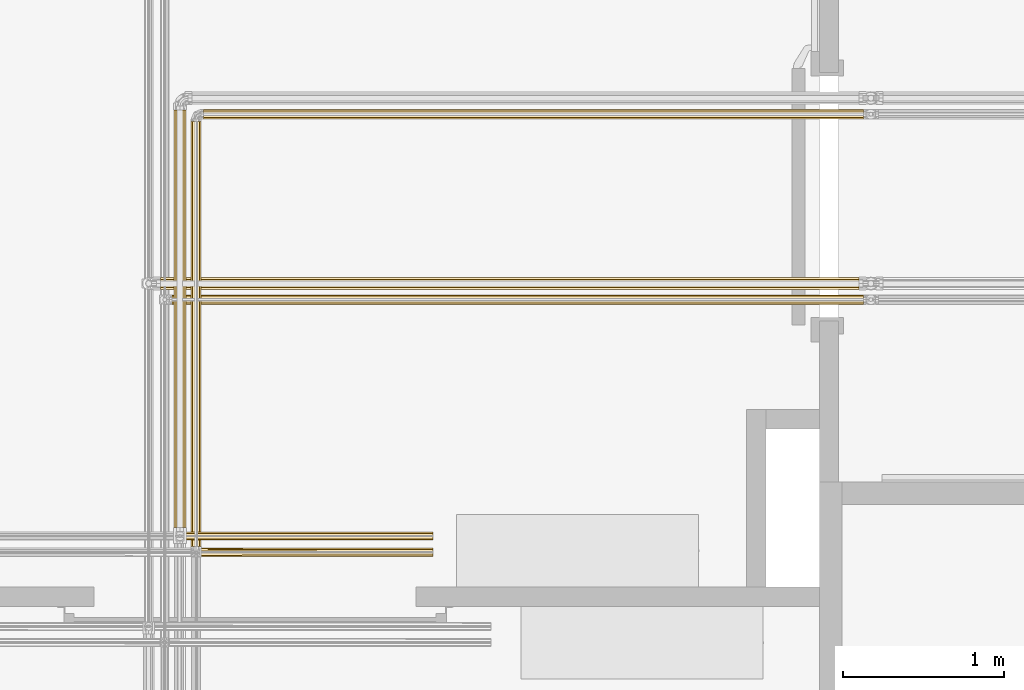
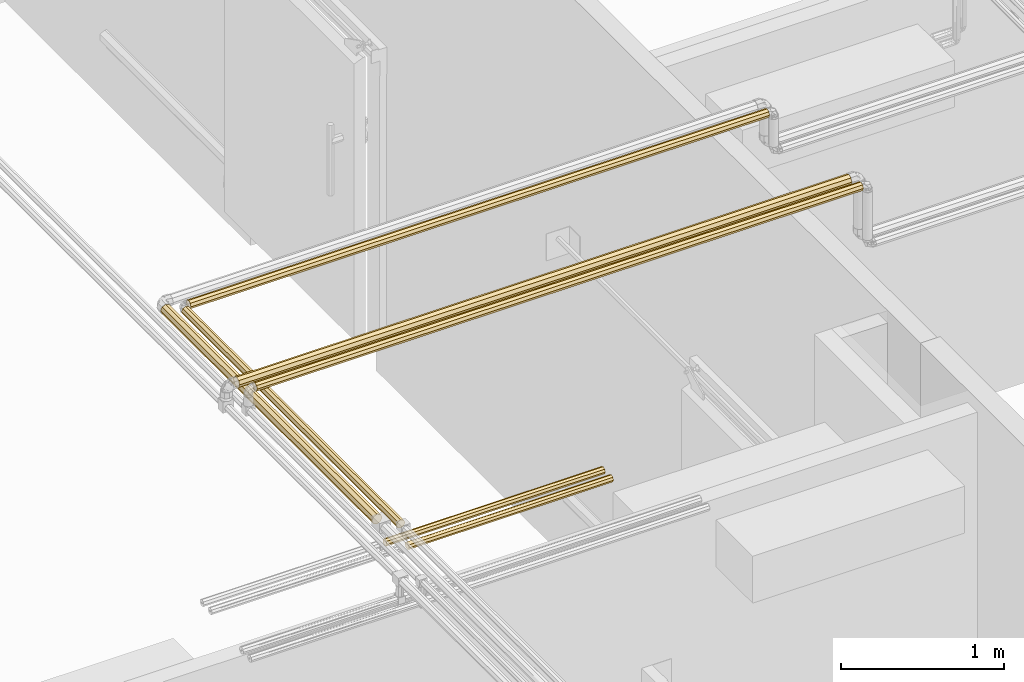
# One storey, part 87 of 652: 7 coverings.
"""IFC2X3 building model written with IfcOpenShell, lengths in millimetres."""

from ifc_helpers import new_model, entity, si_unit, converted_unit, direction, frame, origin, place, context, subcontext, project, spatial, faceted_brep, material, type_object, element, save


model = new_model("IFC2X3")

# Units and contexts
model_context = context("Model", 3, precision=0.01, world=frame((0.0, 0.0, 308426.39999999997)), true_north=direction((6.123233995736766e-17, 1.0)))
plan_context = context("Plan", 3, precision=0.01, world=frame((0.0, 0.0, 308426.39999999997)), true_north=direction((6.123233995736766e-17, 1.0)))
body_context = subcontext(model_context, "Body", "Model", "MODEL_VIEW")
ifc_project = project(units=[si_unit("LENGTHUNIT", "METRE", prefix="MILLI"), si_unit("AREAUNIT", "SQUARE_METRE"), si_unit("VOLUMEUNIT", "CUBIC_METRE"), converted_unit("PLANEANGLEUNIT", "DEGREE", entity("IfcPlaneAngleMeasure", 0.017453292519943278), si_unit("PLANEANGLEUNIT", "RADIAN"), dimensions=[0, 0, 0, 0, 0, 0, 0])], contexts=[model_context, plan_context])

# Site, building, storey
site_placement = place(None, origin())
site = spatial("IfcSite", under=ifc_project, at=site_placement, Name="Default", CompositionType="ELEMENT")
building_placement = place(site_placement, origin())
building = spatial("IfcBuilding", under=site, at=building_placement, CompositionType="ELEMENT")
storey_placement = place(building_placement, frame((0.0, 0.0, 1730.6999999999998)))
storey = spatial("IfcBuildingStorey", under=building, at=storey_placement, Name="EG_Produktion_FFB", CompositionType="ELEMENT", Elevation=1730.6999999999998)

# Coverings
ifc_material = material(Name="Dämmung - Armaflex-Schlauch")
covering_type = type_object("IfcCoveringType", Name="Rohrdämmung außen:Armaflex-Schlauch", PredefinedType="INSULATION")
covering_1_placement = place(storey_placement, frame((15252.485930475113, 58319.954090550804, 4231.707772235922)))
element("IfcCovering", 1, at=covering_1_placement, inside=storey, type_object=covering_type, material=ifc_material, Name="Rohrdämmung außen:Armaflex-Schlauch", ObjectType="Rohrdämmung außen:Armaflex-Schlauch", PredefinedType="INSULATION", context=body_context, shape_type="Brep", body=[
    faceted_brep([(10.415019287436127, 2634.0286594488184, -53.000525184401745), (8.210082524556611, 2634.0286594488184, -47.67733694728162), (6.005145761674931, 2634.0286594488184, -42.35414871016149), (3.8764229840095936, 2634.02865944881, -37.214957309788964), (1.5952722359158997, 2634.0286594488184, -31.70777223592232), (3.8764229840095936, 2634.0286594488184, -26.200587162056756), (6.005145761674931, 2634.0286594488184, -21.061395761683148), (8.210082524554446, 2634.0286594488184, -15.738207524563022), (10.415019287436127, 2634.0286594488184, -10.415019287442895), (15.738207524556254, 2634.0286594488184, -8.210082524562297), (21.06139576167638, 2634.0286594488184, -6.0051457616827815), (26.200587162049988, 2634.0286594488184, -3.8764229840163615), (31.707772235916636, 2634.0286594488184, -1.5952722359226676), (37.21495730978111, 2634.0286594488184, -3.8764229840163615), (42.354148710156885, 2634.0286594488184, -6.0051457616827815), (47.67733694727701, 2634.02865944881, -8.21008252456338), (53.00052518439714, 2634.0286594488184, -10.415019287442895), (55.20546194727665, 2634.0286594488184, -15.738207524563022), (57.41039871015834, 2634.0286594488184, -21.061395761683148), (59.53912148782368, 2634.0286594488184, -26.200587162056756), (61.82027223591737, 2634.0286594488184, -31.70777223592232), (59.61533547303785, 2634.0286594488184, -37.03096047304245), (57.41039871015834, 2634.0286594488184, -42.35414871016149), (55.20546194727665, 2634.0286594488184, -47.67733694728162), (53.00052518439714, 2634.0286594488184, -53.000525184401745), (47.67733694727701, 2634.0286594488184, -55.20546194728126), (42.354148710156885, 2634.0286594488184, -57.41039871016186), (37.21495730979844, 2634.0286594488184, -59.53912148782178), (31.707772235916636, 2634.0286594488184, -61.82027223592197), (26.20058716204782, 2634.0286594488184, -59.539121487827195), (21.06139576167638, 2634.0286594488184, -57.41039871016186), (15.738207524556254, 2634.0286594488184, -55.20546194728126), (10.41501928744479, 0.0, -53.000525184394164), (15.738207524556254, 0.0, -55.20546194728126), (21.06139576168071, 0.0, -57.41039871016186), (26.38458399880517, 0.0, -59.61533547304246), (31.707772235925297, 0.0, -61.82027223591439), (37.21495731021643, 0.0, -59.53912148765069), (42.72214238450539, 0.0, -57.25797073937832), (47.861333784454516, 0.0, -55.12924796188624), (53.0005251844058, 0.0, -53.000525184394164), (55.205461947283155, 0.0, -47.677336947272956), (57.41039871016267, 0.0, -42.35414871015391), (59.61533547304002, 0.0, -37.03096047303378), (61.82027223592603, 0.0, -31.70777223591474), (59.53912148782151, 0.0, -26.200587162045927), (57.25797073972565, 0.0, -20.693402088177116), (55.12924796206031, 0.0, -15.55421068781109), (53.0005251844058, 0.0, -10.415019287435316), (47.67733694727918, 0.0, -8.21008252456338), (42.35414871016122, 0.0, -6.0051457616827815), (37.03096047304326, 0.0, -3.800208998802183), (31.707772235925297, 0.0, -1.5952722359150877), (26.200587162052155, 0.0, -3.8764229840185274), (20.693402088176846, 0.0, -6.157573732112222), (15.554210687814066, 0.0, -8.286296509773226), (10.41501928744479, 0.0, -10.415019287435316), (8.21008252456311, 0.0, -15.738207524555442), (6.005145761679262, 0.0, -21.061395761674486), (3.800208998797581, 0.0, -26.38458399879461), (1.5952722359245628, 0.0, -31.70777223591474), (3.8764229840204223, 0.0, -37.2149573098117), (6.157573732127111, 0.0, -42.722142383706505), (8.28629650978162, 0.0, -47.861333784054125)], [[[0, 1, 2, 3, 4, 5, 6, 7, 8, 9, 10, 11, 12, 13, 14, 15, 16, 17, 18, 19, 20, 21, 22, 23, 24, 25, 26, 27, 28, 29, 30, 31]], [[32, 33, 34, 35, 36, 37, 38, 39, 40, 41, 42, 43, 44, 45, 46, 47, 48, 49, 50, 51, 52, 53, 54, 55, 56, 57, 58, 59, 60, 61, 62, 63]], [[42, 41, 40, 24, 23, 22, 21, 20, 44, 43]], [[24, 40, 39, 38, 37, 36, 28, 27, 26, 25]], [[28, 36, 35, 34, 33, 32, 0, 31, 30, 29]], [[0, 32, 63, 62, 61, 60, 4, 3, 2, 1]], [[4, 60, 59, 58, 57, 56, 8, 7, 6, 5]], [[8, 56, 55, 54, 53, 52, 12, 11, 10, 9]], [[12, 52, 51, 50, 49, 48, 16, 15, 14, 13]], [[16, 48, 47, 46, 45, 44, 20, 19, 18, 17]]]),
])
covering_2_placement = place(storey_placement, frame((15146.135930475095, 58437.35309055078, 4238.057772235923)))
element("IfcCovering", 2, at=covering_2_placement, inside=storey, type_object=covering_type, material=ifc_material, Name="Rohrdämmung außen:Armaflex-Schlauch", ObjectType="Rohrdämmung außen:Armaflex-Schlauch", PredefinedType="INSULATION", context=body_context, shape_type="Brep", body=[
    faceted_brep([(63.840653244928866, 2588.562659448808, -12.274891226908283), (66.51055799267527, 2588.562659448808, -18.720611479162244), (69.18046274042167, 2588.562659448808, -25.166331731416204), (71.85036748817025, 2588.562659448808, -31.61205198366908), (74.52027223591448, 2588.562659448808, -38.05777223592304), (71.85036748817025, 2588.562659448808, -44.50349248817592), (69.18046274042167, 2588.562659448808, -50.94921274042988), (66.5105579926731, 2588.562659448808, -57.39493299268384), (63.840653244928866, 2588.562659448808, -63.8406532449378), (57.39493299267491, 2588.562659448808, -66.5105579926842), (50.94921274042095, 2588.562659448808, -69.18046274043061), (44.50349248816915, 2588.5626594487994, -71.85036748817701), (38.05777223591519, 2588.562659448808, -74.52027223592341), (30.590862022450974, 2588.562659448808, -71.42737675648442), (25.16633173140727, 2588.562659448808, -69.18046274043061), (18.720611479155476, 2588.562659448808, -66.5105579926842), (12.274891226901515, 2588.562659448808, -63.8406532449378), (9.60498647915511, 2588.562659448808, -57.39493299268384), (6.935081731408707, 2588.562659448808, -50.94921274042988), (4.265176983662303, 2588.562659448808, -44.503492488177), (1.5952722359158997, 2588.562659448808, -38.05777223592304), (4.688167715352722, 2588.562659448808, -30.59086202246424), (6.935081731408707, 2588.562659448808, -25.166331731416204), (9.60498647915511, 2588.562659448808, -18.720611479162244), (12.274891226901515, 2588.562659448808, -12.274891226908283), (18.72061147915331, 2588.562659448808, -9.604986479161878), (25.166331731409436, 2588.562659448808, -6.935081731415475), (31.612051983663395, 2588.562659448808, -4.265176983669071), (38.05777223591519, 2588.562659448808, -1.5952722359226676), (45.52468244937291, 2588.562659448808, -4.68816771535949), (50.94921274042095, 2588.562659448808, -6.935081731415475), (57.39493299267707, 2588.562659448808, -9.604986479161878), (63.84065324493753, 0.0, -12.274891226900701), (57.39493299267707, 0.0, -9.604986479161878), (50.949212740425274, 0.0, -6.935081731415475), (44.503492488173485, 0.0, -4.265176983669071), (38.057772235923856, 0.0, -1.5952722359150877), (30.590862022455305, 0.0, -4.688167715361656), (23.12395180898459, 0.0, -7.781063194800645), (12.274891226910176, 0.0, -12.274891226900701), (9.604986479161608, 0.0, -18.72061147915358), (6.935081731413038, 0.0, -25.16633173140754), (4.265176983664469, 0.0, -31.6120519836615), (1.5952722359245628, 0.0, -38.05777223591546), (4.6881677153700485, 0.0, -45.52468244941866), (7.781063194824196, 0.0, -52.99159266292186), (12.274891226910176, 0.0, -63.84065324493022), (18.72061147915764, 0.0, -66.51055799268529), (25.166331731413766, 0.0, -69.18046274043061), (31.612051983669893, 0.0, -71.85036748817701), (38.057772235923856, 0.0, -74.52027223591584), (45.52468245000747, 0.0, -71.42737675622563), (52.99159266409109, 0.0, -68.33448127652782), (63.84065324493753, 0.0, -63.84065324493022), (66.51055799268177, 0.0, -57.39493299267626), (69.18046274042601, 0.0, -50.949212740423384), (71.85036748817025, 0.0, -44.50349248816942), (74.52027223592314, 0.0, -38.05777223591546), (71.4273767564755, 0.0, -30.59086202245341), (68.3344812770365, 0.0, -23.123951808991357)], [[[0, 1, 2, 3, 4, 5, 6, 7, 8, 9, 10, 11, 12, 13, 14, 15, 16, 17, 18, 19, 20, 21, 22, 23, 24, 25, 26, 27, 28, 29, 30, 31]], [[32, 33, 34, 35, 36, 37, 38, 39, 40, 41, 42, 43, 44, 45, 46, 47, 48, 49, 50, 51, 52, 53, 54, 55, 56, 57, 58, 59]], [[55, 54, 53, 8, 7, 6, 5, 4, 57, 56]], [[53, 52, 51, 50, 12, 11, 10, 9, 8]], [[43, 20, 19, 18, 17, 16, 46, 45, 44]], [[15, 14, 13, 12, 50, 49, 48, 47, 46, 16]], [[36, 28, 27, 26, 25, 24, 39, 38, 37]], [[23, 22, 21, 20, 43, 42, 41, 40, 39, 24]], [[57, 4, 3, 2, 1, 0, 32, 59, 58]], [[31, 30, 29, 28, 36, 35, 34, 33, 32, 0]]]),
])
covering_3_placement = place(storey_placement, frame((15306.597430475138, 58255.96056831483, 4076.945272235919)))
element("IfcCovering", 3, at=covering_3_placement, inside=storey, type_object=covering_type, material=ifc_material, Name="Rohrdämmung außen:Armaflex-Schlauch", ObjectType="Rohrdämmung außen:Armaflex-Schlauch", PredefinedType="INSULATION", context=body_context, shape_type="Brep", body=[
    faceted_brep([(1.5952722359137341, 26.945272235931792, -52.295272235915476), (1.5952722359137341, 23.070405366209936, -50.69024982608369), (1.5952722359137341, 17.982693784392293, -48.58285068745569), (1.5952722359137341, 13.50140455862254, -46.726639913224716), (1.5952722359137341, 9.020115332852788, -44.87042913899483), (1.5952722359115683, 7.163904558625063, -40.38913991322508), (1.5952722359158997, 5.307693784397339, -35.90785068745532), (1.5952722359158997, 3.4514830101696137, -31.426561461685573), (1.5952722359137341, 1.5952722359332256, -26.945272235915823), (1.5952722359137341, 4.658921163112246, -19.11346975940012), (1.5952722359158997, 6.491397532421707, -14.428992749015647), (1.5952722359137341, 8.323873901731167, -9.744515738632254), (1.5952722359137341, 13.55197282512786, -6.345393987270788), (1.5952722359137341, 18.78007174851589, -2.946272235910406), (1.5952722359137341, 35.1104727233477, -2.9462722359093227), (1.5952722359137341, 38.6393593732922, -5.923287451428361), (1.5952722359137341, 42.16824602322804, -8.900302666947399), (1.5952722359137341, 45.69713267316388, -11.877317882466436), (1.5952722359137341, 49.22601932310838, -14.854333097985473), (1.5952722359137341, 50.760645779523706, -20.89980266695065), (1.5952722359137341, 52.29527223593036, -26.945272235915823), (1.5952722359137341, 50.439061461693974, -31.426561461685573), (1.5952722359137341, 48.58285068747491, -35.90785068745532), (1.5952722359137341, 46.72663991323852, -40.38913991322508), (1.5952722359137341, 44.8704291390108, -44.87042913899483), (1.5952722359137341, 40.389139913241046, -46.726639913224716), (1.5952722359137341, 35.907850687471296, -48.58285068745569), (1.5952722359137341, 31.426561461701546, -50.43906146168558), (1447.4015695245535, 13.50140455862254, -46.726639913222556), (1447.4015695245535, 17.982693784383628, -48.58285068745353), (1447.4015695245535, 22.46398301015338, -50.4390614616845), (1447.4015695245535, 26.94527223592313, -52.29527223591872), (1447.4015695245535, 34.69500597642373, -49.08522741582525), (1447.4015695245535, 39.78271755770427, -46.97782827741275), (1447.4015695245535, 44.870429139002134, -44.87042913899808), (1447.4015695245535, 46.72663991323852, -40.389139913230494), (1447.4015695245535, 48.58285068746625, -35.90785068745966), (1447.4015695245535, 50.439061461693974, -31.426561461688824), (1447.4015695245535, 52.2952722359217, -26.94527223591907), (1447.4015695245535, 50.69024982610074, -23.070405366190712), (1447.4015695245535, 48.58285068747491, -17.98269378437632), (1447.4015695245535, 46.72663991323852, -13.501404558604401), (1447.4015695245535, 44.870429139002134, -9.020115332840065), (1447.4015695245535, 40.389139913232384, -7.163904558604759), (1447.4015695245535, 35.907850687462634, -5.307693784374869), (1447.4015695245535, 31.426561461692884, -3.451483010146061), (1447.4015695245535, 26.94527223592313, -1.5952722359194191), (1447.4015695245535, 22.46398301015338, -3.451483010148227), (1447.4015695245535, 17.982693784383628, -5.307693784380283), (1447.4015695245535, 13.501404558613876, -7.16390455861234), (1447.4015695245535, 9.020115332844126, -9.020115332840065), (1447.4015695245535, 7.163904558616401, -13.501404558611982), (1447.4015695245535, 5.307693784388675, -17.982693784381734), (1447.4015695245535, 3.4514830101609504, -22.4639830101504), (1447.4015695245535, 1.5952722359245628, -26.94527223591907), (1447.4015695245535, 4.80531705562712, -34.695005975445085), (1447.4015695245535, 6.912716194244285, -39.782717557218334), (1447.4015695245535, 9.020115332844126, -44.87042913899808), (2.606241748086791, 22.807165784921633, -1.935302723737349), (2.946272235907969, 26.945272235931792, -1.5952722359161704), (2.606241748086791, 31.083378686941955, -1.935302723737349)], [[[0, 1, 2, 3, 4, 5, 6, 7, 8, 9, 10, 11, 12, 13, 14, 15, 16, 17, 18, 19, 20, 21, 22, 23, 24, 25, 26, 27]], [[28, 29, 30, 31, 32, 33, 34, 35, 36, 37, 38, 39, 40, 41, 42, 43, 44, 45, 46, 47, 48, 49, 50, 51, 52, 53, 54, 55, 56, 57]], [[36, 35, 34, 24, 23, 22, 21, 20, 38, 37]], [[32, 31, 0, 27, 26, 25, 24, 34, 33]], [[29, 28, 57, 4, 3, 2, 1, 0, 31, 30]], [[4, 57, 56, 55, 54, 8, 7, 6, 5]], [[9, 52, 10]], [[47, 46, 58]], [[51, 11, 10]], [[8, 53, 9]], [[12, 50, 49, 48]], [[53, 52, 9]], [[47, 13, 48]], [[13, 47, 58]], [[53, 8, 54]], [[50, 11, 51]], [[46, 59, 58]], [[50, 12, 11]], [[51, 10, 52]], [[12, 48, 13]], [[45, 44, 14]], [[39, 38, 20]], [[43, 16, 15]], [[46, 60, 59]], [[42, 16, 43]], [[14, 60, 45]], [[40, 19, 18]], [[44, 43, 15]], [[17, 41, 18]], [[39, 20, 19]], [[17, 16, 42]], [[19, 40, 39]], [[44, 15, 14]], [[60, 46, 45]], [[41, 17, 42]], [[41, 40, 18]], [[14, 13, 58, 59, 60]]]),
])
covering_4_placement = place(storey_placement, frame((15208.192702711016, 58355.960568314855, 4023.0547277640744)))
element("IfcCovering", 4, at=covering_4_placement, inside=storey, type_object=covering_type, material=ifc_material, Name="Rohrdämmung außen:Armaflex-Schlauch", ObjectType="Rohrdämmung außen:Armaflex-Schlauch", PredefinedType="INSULATION", context=body_context, shape_type="Brep", body=[
    faceted_brep([(0.0, 1.5952722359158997, 26.94527223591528), (0.0, 3.096463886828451, 30.569469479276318), (0.0, 5.307693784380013, 35.90785068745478), (0.0, 7.1639045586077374, 40.38913991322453), (0.0, 9.020115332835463, 44.87042913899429), (0.0, 13.501404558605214, 46.726639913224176), (0.0, 17.982693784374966, 48.58285068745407), (0.0, 22.463983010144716, 50.439061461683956), (0.0, 26.94527223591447, 52.29527223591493), (0.0, 30.569469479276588, 50.79408058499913), (0.0, 35.90785068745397, 48.58285068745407), (0.0, 40.38913991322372, 46.726639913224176), (0.0, 44.87042913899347, 44.87042913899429), (0.0, 46.72663991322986, 40.38913991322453), (0.0, 48.582850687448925, 35.90785068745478), (0.0, 50.43906146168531, 31.426561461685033), (0.0, 52.29527223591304, 26.94527223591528), (0.0, 50.43906146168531, 22.46398301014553), (0.0, 48.582850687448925, 17.982693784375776), (0.0, 46.7266399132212, 13.501404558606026), (0.0, 44.87042913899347, 9.020115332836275), (0.0, 40.38913991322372, 7.163904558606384), (0.0, 35.90785068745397, 5.307693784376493), (0.0, 31.42656146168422, 3.4514830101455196), (0.0, 26.94527223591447, 1.595272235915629), (0.0, 23.321074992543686, 3.096463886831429), (0.0, 17.982693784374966, 5.307693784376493), (0.0, 13.501404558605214, 7.163904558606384), (0.0, 9.020115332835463, 9.020115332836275), (0.0, 7.163904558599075, 13.501404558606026), (0.0, 5.307693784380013, 17.982693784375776), (0.0, 3.4514830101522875, 22.46398301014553), (1545.8062972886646, 13.50140455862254, 7.163904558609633), (1545.8062972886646, 17.982693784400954, 5.307693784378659), (1545.8062972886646, 22.46398301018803, 3.4514830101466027), (1545.8062972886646, 26.945272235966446, 1.5952722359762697), (1545.8062972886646, 34.193666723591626, 4.597655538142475), (1545.8062972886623, 39.532047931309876, 6.808885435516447), (1545.8062972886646, 44.87042913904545, 9.020115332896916), (1545.8062972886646, 46.72663991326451, 13.501404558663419), (1545.8062972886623, 48.58285068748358, 17.982693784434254), (1545.8062972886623, 50.439061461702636, 22.463983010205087), (1545.8062972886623, 52.295272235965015, 26.94527223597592), (1545.8062972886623, 49.29288893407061, 34.19366672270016), (1545.8062972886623, 47.08165903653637, 39.532047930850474), (1545.8062972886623, 44.87042913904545, 44.87042913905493), (1545.8062972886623, 40.38913991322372, 46.72663991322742), (1545.8062972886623, 35.907850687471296, 48.58285068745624), (1545.8062972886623, 31.426561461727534, 50.43906146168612), (1545.8062972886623, 26.945272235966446, 52.295272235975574), (1545.8062972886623, 19.696877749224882, 49.292888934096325), (1545.8062972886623, 14.358496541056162, 47.081659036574), (1545.8062972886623, 9.02011533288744, 44.87042913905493), (1545.8062972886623, 7.16390455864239, 40.38913991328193), (1545.8062972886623, 5.307693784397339, 35.90785068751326), (1545.8062972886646, 3.4514830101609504, 31.42656146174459), (1545.8062972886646, 1.5952722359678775, 26.94527223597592), (1545.8062972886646, 4.597655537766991, 19.696877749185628), (1545.8062972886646, 6.808885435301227, 14.35849654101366), (1545.8062972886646, 9.02011533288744, 9.020115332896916)], [[[0, 1, 2, 3, 4, 5, 6, 7, 8, 9, 10, 11, 12, 13, 14, 15, 16, 17, 18, 19, 20, 21, 22, 23, 24, 25, 26, 27, 28, 29, 30, 31]], [[32, 33, 34, 35, 36, 37, 38, 39, 40, 41, 42, 43, 44, 45, 46, 47, 48, 49, 50, 51, 52, 53, 54, 55, 56, 57, 58, 59]], [[40, 39, 38, 20, 19, 18, 17, 16, 42, 41]], [[36, 35, 24, 23, 22, 21, 20, 38, 37]], [[33, 32, 59, 28, 27, 26, 25, 24, 35, 34]], [[28, 59, 58, 57, 56, 0, 31, 30, 29]], [[54, 53, 52, 4, 3, 2, 1, 0, 56, 55]], [[4, 52, 51, 50, 49, 8, 7, 6, 5]], [[47, 46, 45, 12, 11, 10, 9, 8, 49, 48]], [[12, 45, 44, 43, 42, 16, 15, 14, 13]]]),
])
covering_5_placement = place(storey_placement, frame((15136.017249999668, 59818.29222775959, 4318.2922277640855)))
element("IfcCovering", 5, at=covering_5_placement, inside=storey, type_object=covering_type, material=ifc_material, Name="Rohrdämmung außen:Armaflex-Schlauch", ObjectType="Rohrdämmung außen:Armaflex-Schlauch", PredefinedType="INSULATION", context=body_context, shape_type="Brep", body=[
    faceted_brep([(4287.965499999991, 61.82027223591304, 31.707772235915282), (4287.965499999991, 59.01772335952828, 38.47372374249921), (4287.965499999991, 57.410398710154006, 42.354148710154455), (4287.965499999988, 55.205461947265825, 47.677336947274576), (4287.965499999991, 53.000525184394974, 53.000525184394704), (4287.965499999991, 47.67733694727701, 55.2054619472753), (4287.965499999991, 42.35414871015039, 57.410398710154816), (4287.965499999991, 37.03096047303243, 59.615335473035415), (4287.965499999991, 31.70777223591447, 61.820272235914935), (4287.965499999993, 24.941820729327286, 59.01772335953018), (4287.965499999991, 21.061395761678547, 57.410398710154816), (4287.965499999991, 15.738207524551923, 55.2054619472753), (4287.965499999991, 10.415019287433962, 53.000525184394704), (4287.965499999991, 8.21008252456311, 47.677336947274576), (4287.965499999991, 6.005145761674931, 42.354148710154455), (4287.965499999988, 3.8002089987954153, 37.03096047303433), (4287.965499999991, 1.5952722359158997, 31.707772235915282), (4287.965499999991, 3.8002089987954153, 26.384583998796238), (4287.965499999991, 6.005145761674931, 21.06139576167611), (4287.965499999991, 8.210082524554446, 15.738207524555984), (4287.965499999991, 10.415019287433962, 10.415019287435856), (4287.965499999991, 15.738207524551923, 8.210082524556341), (4287.965499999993, 21.061395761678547, 6.005145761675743), (4287.965499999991, 26.384583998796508, 3.8002089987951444), (4287.965499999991, 31.70777223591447, 1.595272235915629), (4287.965499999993, 38.47372374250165, 4.397821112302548), (4287.965499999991, 42.35414871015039, 6.005145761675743), (4287.965499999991, 47.67733694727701, 8.210082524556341), (4287.965499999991, 53.000525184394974, 10.415019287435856), (4287.965499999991, 55.20546194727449, 15.738207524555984), (4287.965499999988, 57.410398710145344, 21.061395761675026), (4287.965499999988, 59.61533547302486, 26.384583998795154), (0.0, 47.677336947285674, 8.210082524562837), (0.0, 42.35414871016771, 6.005145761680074), (0.0, 37.03096047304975, 3.800208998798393), (0.0, 31.707772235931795, 1.595272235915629), (0.0, 24.94182072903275, 4.3978211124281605), (0.0, 18.175869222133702, 7.2003699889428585), (0.0, 10.415019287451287, 10.415019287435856), (0.0, 8.21008252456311, 15.738207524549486), (0.0, 6.005145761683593, 21.06139576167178), (0.0, 3.800208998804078, 26.38458399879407), (0.0, 1.5952722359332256, 31.707772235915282), (0.0, 4.397821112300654, 38.47372374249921), (0.0, 7.200369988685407, 45.23967524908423), (0.0, 10.415019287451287, 53.000525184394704), (0.0, 15.738207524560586, 55.20546194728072), (0.0, 21.06139576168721, 57.41039871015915), (0.0, 26.384583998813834, 59.61533547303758), (0.0, 31.707772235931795, 61.820272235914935), (0.0, 38.47372374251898, 59.01772335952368), (0.0, 45.239675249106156, 56.21517448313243), (0.0, 53.000525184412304, 53.000525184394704), (0.0, 55.205461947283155, 47.67733694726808), (0.0, 57.41039871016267, 42.35414871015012), (0.0, 59.61533547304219, 37.03096047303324), (0.0, 61.82027223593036, 31.707772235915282), (0.0, 59.01772335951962, 24.94182072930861), (0.0, 56.21517448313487, 18.17586922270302), (0.0, 53.000525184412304, 10.415019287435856)], [[[0, 1, 2, 3, 4, 5, 6, 7, 8, 9, 10, 11, 12, 13, 14, 15, 16, 17, 18, 19, 20, 21, 22, 23, 24, 25, 26, 27, 28, 29, 30, 31]], [[32, 33, 34, 35, 36, 37, 38, 39, 40, 41, 42, 43, 44, 45, 46, 47, 48, 49, 50, 51, 52, 53, 54, 55, 56, 57, 58, 59]], [[40, 39, 38, 20, 19, 18, 17, 16, 42, 41]], [[38, 37, 36, 35, 24, 23, 22, 21, 20]], [[56, 0, 31, 30, 29, 28, 59, 58, 57]], [[27, 26, 25, 24, 35, 34, 33, 32, 59, 28]], [[49, 8, 7, 6, 5, 4, 52, 51, 50]], [[3, 2, 1, 0, 56, 55, 54, 53, 52, 4]], [[42, 16, 15, 14, 13, 12, 45, 44, 43]], [[11, 10, 9, 8, 49, 48, 47, 46, 45, 12]]]),
])
covering_6_placement = place(storey_placement, frame((15330.210952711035, 60968.292227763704, 4168.292227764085)))
element("IfcCovering", 6, at=covering_6_placement, inside=storey, type_object=covering_type, material=ifc_material, Name="Rohrdämmung außen:Armaflex-Schlauch", ObjectType="Rohrdämmung außen:Armaflex-Schlauch", PredefinedType="INSULATION", context=body_context, shape_type="Brep", body=[
    faceted_brep([(4093.771797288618, 61.82027223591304, 31.707772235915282), (4093.771797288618, 58.88478059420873, 38.794675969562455), (4093.771797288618, 57.410398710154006, 42.354148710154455), (4093.771797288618, 55.20546194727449, 47.67733694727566), (4093.771797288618, 53.000525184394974, 53.000525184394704), (4093.771797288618, 47.67733694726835, 55.20546194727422), (4093.771797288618, 42.35414871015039, 57.410398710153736), (4093.771797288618, 37.03096047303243, 59.615335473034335), (4093.771797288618, 31.70777223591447, 61.820272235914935), (4093.771797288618, 24.62086850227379, 58.88478059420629), (4093.771797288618, 21.061395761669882, 57.410398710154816), (4093.771797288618, 15.738207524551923, 55.20546194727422), (4093.771797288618, 10.415019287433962, 53.000525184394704), (4093.771797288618, 8.210082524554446, 47.677336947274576), (4093.771797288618, 6.005145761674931, 42.354148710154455), (4093.771797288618, 3.8002089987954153, 37.03096047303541), (4093.771797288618, 1.5952722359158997, 31.707772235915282), (4093.771797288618, 3.8002089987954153, 26.384583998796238), (4093.771797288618, 6.005145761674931, 21.06139576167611), (4093.771797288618, 8.210082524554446, 15.738207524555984), (4093.771797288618, 10.415019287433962, 10.415019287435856), (4093.771797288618, 15.738207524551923, 8.210082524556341), (4093.771797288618, 21.061395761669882, 6.005145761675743), (4093.771797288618, 26.384583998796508, 3.8002089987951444), (4093.771797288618, 31.70777223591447, 1.595272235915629), (4093.771797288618, 38.794675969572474, 4.530763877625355), (4093.771797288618, 42.35414871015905, 6.005145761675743), (4093.771797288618, 47.67733694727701, 8.210082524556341), (4093.771797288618, 53.000525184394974, 10.415019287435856), (4093.771797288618, 55.20546194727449, 15.738207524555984), (4093.771797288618, 57.410398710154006, 21.061395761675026), (4093.771797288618, 59.615335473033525, 26.384583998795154), (0.0, 47.67733694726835, 8.210082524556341), (0.0, 42.35414871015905, 6.005145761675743), (0.0, 37.03096047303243, 3.8002089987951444), (0.0, 31.70777223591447, 1.595272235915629), (0.0, 24.620868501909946, 4.530763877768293), (0.0, 17.533964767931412, 7.466255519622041), (0.0, 10.415019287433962, 10.415019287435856), (0.0, 8.210082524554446, 15.738207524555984), (0.0, 6.005145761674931, 21.06139576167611), (0.0, 3.8002089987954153, 26.384583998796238), (0.0, 1.5952722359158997, 31.707772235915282), (0.0, 4.5307638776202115, 38.79467596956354), (0.0, 7.466255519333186, 45.881579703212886), (0.0, 10.415019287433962, 53.000525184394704), (0.0, 15.738207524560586, 55.20546194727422), (0.0, 21.061395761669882, 57.410398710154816), (0.0, 26.384583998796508, 59.615335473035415), (0.0, 31.70777223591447, 61.820272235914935), (0.0, 38.794675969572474, 58.88478059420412), (0.0, 45.88157970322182, 55.94928895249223), (0.0, 53.000525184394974, 53.000525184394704), (0.0, 55.20546194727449, 47.677336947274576), (0.0, 57.410398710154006, 42.354148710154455), (0.0, 59.615335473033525, 37.03096047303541), (0.0, 61.82027223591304, 31.707772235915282), (0.0, 58.8847805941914, 24.62086850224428), (0.0, 55.949288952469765, 17.533964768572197), (0.0, 53.000525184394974, 10.415019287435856)], [[[0, 1, 2, 3, 4, 5, 6, 7, 8, 9, 10, 11, 12, 13, 14, 15, 16, 17, 18, 19, 20, 21, 22, 23, 24, 25, 26, 27, 28, 29, 30, 31]], [[32, 33, 34, 35, 36, 37, 38, 39, 40, 41, 42, 43, 44, 45, 46, 47, 48, 49, 50, 51, 52, 53, 54, 55, 56, 57, 58, 59]], [[40, 39, 38, 20, 19, 18, 17, 16, 42, 41]], [[38, 37, 36, 35, 24, 23, 22, 21, 20]], [[30, 29, 28, 59, 58, 57, 56, 0, 31]], [[27, 26, 25, 24, 35, 34, 33, 32, 59, 28]], [[6, 5, 4, 52, 51, 50, 49, 8, 7]], [[3, 2, 1, 0, 56, 55, 54, 53, 52, 4]], [[14, 13, 12, 45, 44, 43, 42, 16, 15]], [[11, 10, 9, 8, 49, 48, 47, 46, 45, 12]]]),
])
covering_7_placement = place(storey_placement, frame((15064.084249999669, 59911.9422277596, 4311.942227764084)))
element("IfcCovering", 7, at=covering_7_placement, inside=storey, type_object=covering_type, material=ifc_material, Name="Rohrdämmung außen:Armaflex-Schlauch", ObjectType="Rohrdämmung außen:Armaflex-Schlauch", PredefinedType="INSULATION", context=body_context, shape_type="Brep", body=[
    faceted_brep([(4331.831499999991, 74.52027223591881, 38.057772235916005), (4331.831499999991, 70.82384325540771, 46.981741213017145), (4331.831499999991, 69.18046274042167, 50.949212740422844), (4331.831499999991, 66.51055799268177, 57.39493299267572), (4331.831499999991, 63.8406532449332, 63.84065324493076), (4331.831499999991, 57.394932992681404, 66.51055799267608), (4331.831499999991, 50.94921274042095, 69.18046274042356), (4331.831499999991, 44.50349248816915, 71.85036748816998), (4331.831499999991, 38.057772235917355, 74.52027223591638), (4331.831499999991, 29.133803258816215, 70.82384325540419), (4331.831499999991, 25.166331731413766, 69.18046274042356), (4331.831499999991, 18.72061147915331, 66.51055799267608), (4331.831499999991, 12.274891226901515, 63.84065324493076), (4331.831499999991, 9.604986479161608, 57.3949329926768), (4331.831499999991, 6.935081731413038, 50.949212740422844), (4331.831499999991, 4.265176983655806, 44.50349248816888), (4331.831499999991, 1.5952722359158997, 38.057772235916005), (4331.831499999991, 4.265176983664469, 31.612051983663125), (4331.831499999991, 6.935081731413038, 25.166331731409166), (4331.831499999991, 9.604986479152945, 18.720611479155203), (4331.831499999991, 12.274891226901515, 12.274891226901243), (4331.831499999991, 18.72061147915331, 9.60498647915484), (4331.831499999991, 25.166331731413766, 6.935081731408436), (4331.831499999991, 31.612051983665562, 4.265176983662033), (4331.831499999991, 38.057772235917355, 1.595272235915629), (4331.831499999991, 46.981741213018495, 5.291701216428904), (4331.831499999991, 50.94921274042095, 6.935081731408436), (4331.831499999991, 57.394932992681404, 9.60498647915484), (4331.831499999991, 63.8406532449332, 12.274891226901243), (4331.831499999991, 66.51055799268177, 18.720611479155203), (4331.831499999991, 69.18046274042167, 25.166331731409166), (4331.831499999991, 71.85036748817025, 31.612051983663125), (0.0, 57.394932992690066, 9.60498647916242), (0.0, 50.94921274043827, 6.935081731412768), (0.0, 44.503492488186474, 4.265176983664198), (0.0, 38.057772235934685, 1.595272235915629), (0.0, 29.133803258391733, 5.291701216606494), (0.0, 20.20983428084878, 8.988130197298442), (0.0, 12.27489122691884, 12.274891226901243), (0.0, 9.604986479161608, 18.720611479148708), (0.0, 6.935081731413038, 25.16633173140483), (0.0, 4.265176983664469, 31.612051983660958), (0.0, 1.5952722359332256, 38.057772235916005), (0.0, 5.291701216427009, 46.981741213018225), (0.0, 8.988130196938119, 55.90571019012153), (0.0, 12.27489122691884, 63.84065324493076), (0.0, 18.720611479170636, 66.51055799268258), (0.0, 25.166331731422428, 69.1804627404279), (0.0, 31.61205198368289, 71.85036748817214), (0.0, 38.057772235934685, 74.52027223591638), (0.0, 46.981741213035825, 70.82384325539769), (0.0, 55.90571019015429, 67.12741427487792), (0.0, 63.84065324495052, 63.84065324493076), (0.0, 66.51055799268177, 57.394932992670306), (0.0, 69.18046274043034, 50.94921274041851), (0.0, 71.8503674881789, 44.5034924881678), (0.0, 74.52027223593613, 38.057772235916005), (0.0, 70.82384325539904, 29.13380325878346), (0.0, 67.12741427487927, 20.209834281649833), (0.0, 63.84065324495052, 12.274891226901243)], [[[0, 1, 2, 3, 4, 5, 6, 7, 8, 9, 10, 11, 12, 13, 14, 15, 16, 17, 18, 19, 20, 21, 22, 23, 24, 25, 26, 27, 28, 29, 30, 31]], [[32, 33, 34, 35, 36, 37, 38, 39, 40, 41, 42, 43, 44, 45, 46, 47, 48, 49, 50, 51, 52, 53, 54, 55, 56, 57, 58, 59]], [[40, 39, 38, 20, 19, 18, 17, 16, 42, 41]], [[38, 37, 36, 35, 24, 23, 22, 21, 20]], [[30, 29, 28, 59, 58, 57, 56, 0, 31]], [[27, 26, 25, 24, 35, 34, 33, 32, 59, 28]], [[6, 5, 4, 52, 51, 50, 49, 8, 7]], [[3, 2, 1, 0, 56, 55, 54, 53, 52, 4]], [[14, 13, 12, 45, 44, 43, 42, 16, 15]], [[11, 10, 9, 8, 49, 48, 47, 46, 45, 12]]]),
])

save(model, "model.ifc")
